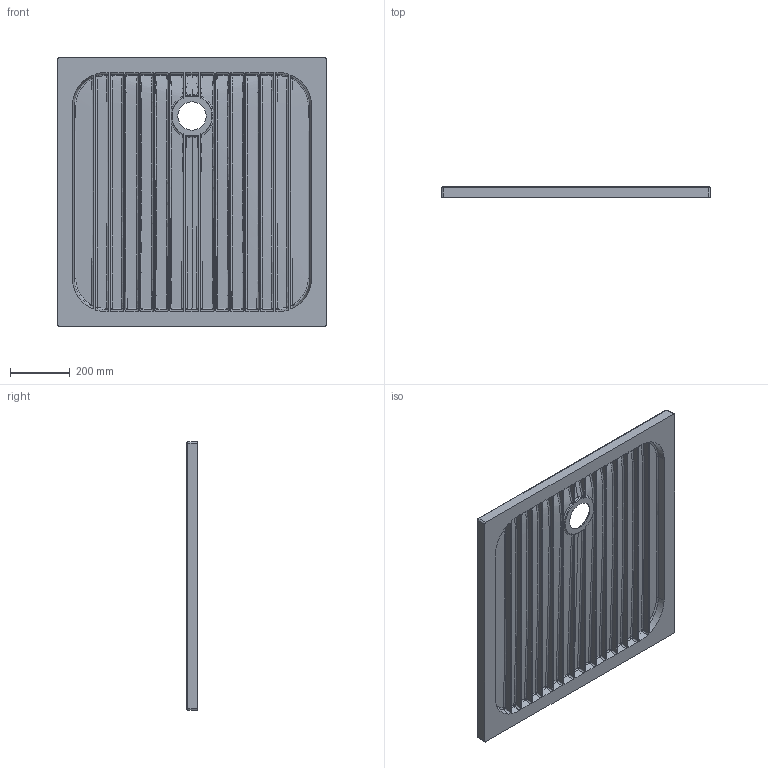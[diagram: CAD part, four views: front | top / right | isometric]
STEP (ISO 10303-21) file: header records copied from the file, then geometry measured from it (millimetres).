
FILE_DESCRIPTION (( 'STEP AP203' ), '1' );
FILE_NAME ('RAPID PD09009040.STEP', '2022-01-19T08:10:11', ( '' ), ( '' ), 'SwSTEP 2.0', 'SolidWorks 2021', '' );
FILE_SCHEMA (( 'CONFIG_CONTROL_DESIGN' ));
Products named in the file (1): RAPID PD09009040
Bounding box: 901.33 x 38 x 901.33 mm (x, y, z)
Volume: 15812130.1 mm3; surface area: 2111914.2 mm2
Topology: 1 solids, 1 shells, 331 faces, 742 edges, 425 vertices
Faces by surface type: bspline 126, sphere 68, plane 66, cylinder 56, cone 13, torus 2
Entity records: 31481 total; most frequent: CARTESIAN_POINT 25128, ORIENTED_EDGE 1470, DIRECTION 1070, EDGE_CURVE 735, AXIS2_PLACEMENT_3D 443, VERTEX_POINT 425, EDGE_LOOP 352, FACE_OUTER_BOUND 333
